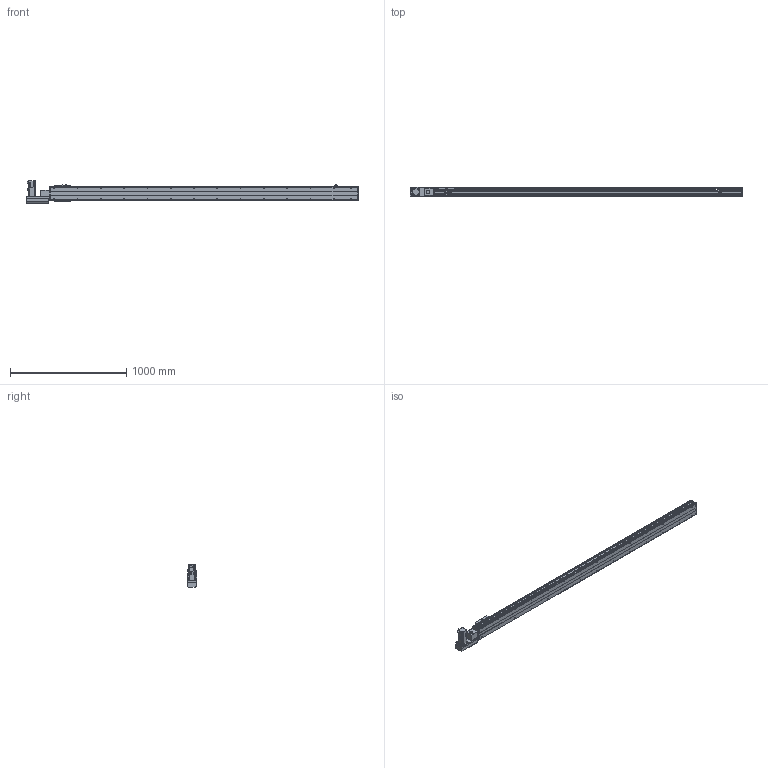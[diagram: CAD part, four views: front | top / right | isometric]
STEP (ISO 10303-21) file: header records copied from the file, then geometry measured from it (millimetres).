
FILE_DESCRIPTION(/* description */ ('STEP AP214'),/* implementation_level */ '2;1');
FILE_NAME(/* name */ 'PBS120-P40-S2350-L-T40-C1-N(0)',/* time_stamp */ '2022-06-05T02:28:52+02:00',/* author */ ('License CC BY-ND 4.0'),/* organization */ ('CADENAS'),/* preprocessor_version */ 'ST-DEVELOPER v18.102',/* originating_system */ 'PARTsolutions',/* authorisation */ ' ');
FILE_SCHEMA (('AUTOMOTIVE_DESIGN {1 0 10303 214 3 1 1}'));
Length unit declared in the file: millimetre
Products named in the file (7): PBS120-P40-S2350-L-T40-C1-N(0); PBS120_sensor; PBS120_plant; PBS120_sliser; T40-p1; PBS120T-L_motors; PBS120-S2350()_body
Assembly tree (8 placements, depth 2):
  PBS120-P40-S2350-L-T40-C1-N(0)
    PBS120_sensor  x3
    PBS120_plant
    PBS120_sliser
    T40-p1
    PBS120T-L_motors
    PBS120-S2350()_body
Bounding box: 2851 x 83 x 189.7 mm (x, y, z)
Volume: 10355480.7 mm3; surface area: 2133258.5 mm2
Topology: 8 solids, 8 shells, 864 faces, 2216 edges, 1423 vertices
Faces by surface type: plane 561, cylinder 241, cone 60, torus 2
Full cylindrical faces by diameter (mm): 2.459 x6, 3.242 x4, 4 x2, 4.134 x4, 4.5 x10, 4.917 x32, 5.5 x11, 6 x2, 6.6 x1, 7 x2, 8.5 x4, 9 x4, 12 x1, 14 x1, 30 x2, 40 x1, 50 x2
Entity records: 22314 total; most frequent: DIRECTION 3884, CARTESIAN_POINT 3785, ORIENTED_EDGE 3574, EDGE_CURVE 1787, AXIS2_PLACEMENT_3D 1328, VERTEX_POINT 1229, LINE 1228, VECTOR 1228
